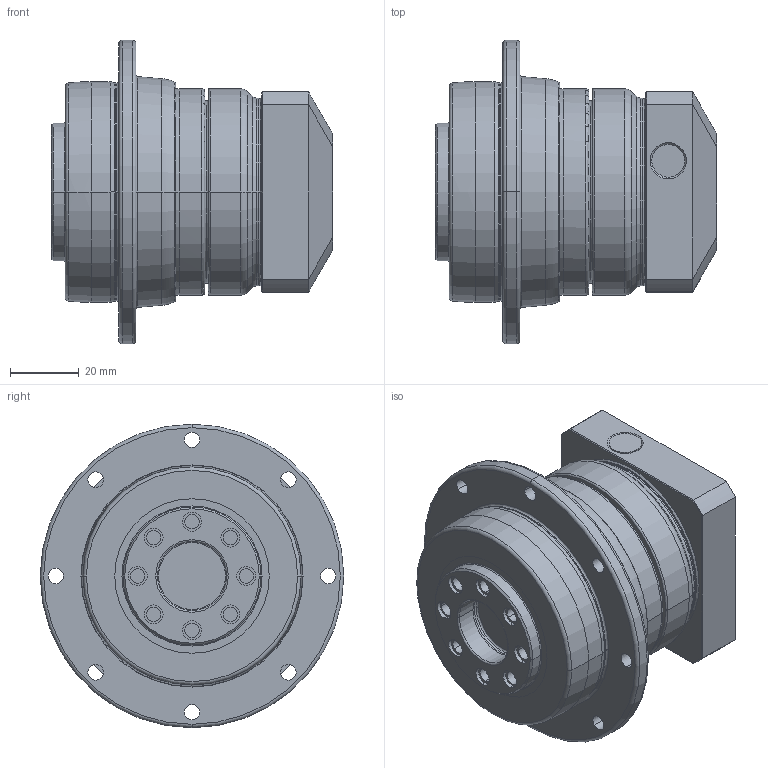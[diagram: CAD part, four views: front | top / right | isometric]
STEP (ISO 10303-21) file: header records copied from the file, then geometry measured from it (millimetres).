
FILE_DESCRIPTION((''),'2;1');
FILE_NAME('PD064_1ST_8-P0411100101_ASM','2016-06-02T',('d01943'),(''),'PRO/ENGINEER BY PARAMETRIC TECHNOLOGY CORPORATION, 2008410','PRO/ENGINEER BY PARAMETRIC TECHNOLOGY CORPORATION, 2008410','');
FILE_SCHEMA(('CONFIG_CONTROL_DESIGN'));
Length unit declared in the file: millimetre
Products named in the file (8): P1355200001; P0367200001; P0274200001; P1324200001; P0411100101; P0503100005; P0941200001; PD064_1ST_8-P0411100101_ASM
Assembly tree (7 placements, depth 2):
  PD064_1ST_8-P0411100101_ASM
    P1355200001
    P0367200001
    P0274200001
    P1324200001
    P0411100101
    P0503100005
    P0941200001
Bounding box: 81.5 x 88 x 88 mm (x, y, z)
Volume: 226540.6 mm3; surface area: 63202 mm2
Topology: 7 solids, 7 shells, 374 faces, 873 edges, 520 vertices
Faces by surface type: cylinder 131, cone 88, torus 76, plane 65, bspline 14
Entity records: 15650 total; most frequent: CARTESIAN_POINT 6814, DIRECTION 1969, ORIENTED_EDGE 1714, EDGE_CURVE 857, AXIS2_PLACEMENT_3D 848, VERTEX_POINT 520, CIRCLE 473, EDGE_LOOP 445
